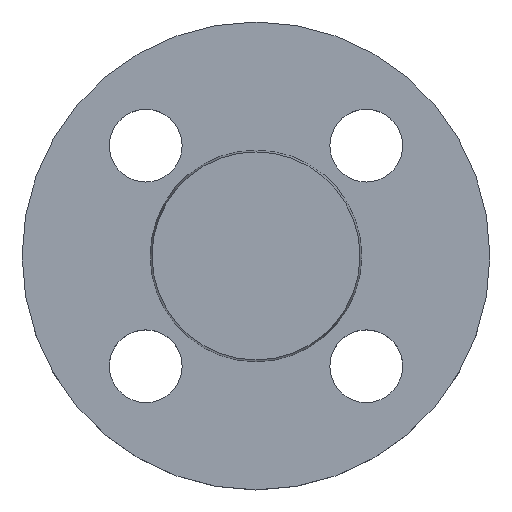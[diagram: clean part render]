
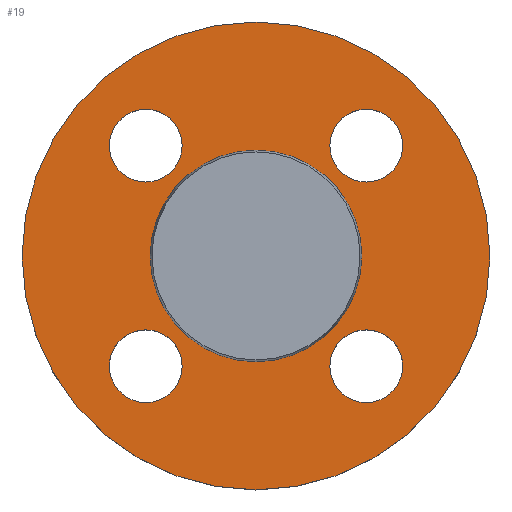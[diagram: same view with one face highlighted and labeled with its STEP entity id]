
A CAD part, top view. The second image highlights one B-rep face of the part: STEP entity #19.
In plain terms, the highlighted planar face has unit normal (0, 0, 1).
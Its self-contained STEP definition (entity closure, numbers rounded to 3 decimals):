
#1 = CARTESIAN_POINT ( 'NONE',  ( 21.213, 21.213, -2. ) ) ;
#7 = CIRCLE ( 'NONE', #300, 20.353 ) ;
#9 = AXIS2_PLACEMENT_3D ( 'NONE', #146, #202, #150 ) ;
#16 = EDGE_LOOP ( 'NONE', ( #533, #534 ) ) ;
#19 = ADVANCED_FACE ( 'NONE', ( #645, #646, #647, #648, #650, #651 ), #652, .T. ) ;
#23 = DIRECTION ( 'NONE',  ( 1., 0., 0. ) ) ;
#24 = DIRECTION ( 'NONE',  ( 0., 0., -1. ) ) ;
#31 = CIRCLE ( 'NONE', #33, 7. ) ;
#33 = AXIS2_PLACEMENT_3D ( 'NONE', #686, #687, #688 ) ;
#65 = CIRCLE ( 'NONE', #73, 7. ) ;
#73 = AXIS2_PLACEMENT_3D ( 'NONE', #715, #717, #718 ) ;
#75 = CIRCLE ( 'NONE', #87, 7. ) ;
#87 = AXIS2_PLACEMENT_3D ( 'NONE', #720, #722, #723 ) ;
#98 = DIRECTION ( 'NONE',  ( 0., 0., -1. ) ) ;
#115 = EDGE_CURVE ( 'NONE', #602, #458, #31, .T. ) ;
#133 = CARTESIAN_POINT ( 'NONE',  ( -14.213, 21.213, -2. ) ) ;
#146 = CARTESIAN_POINT ( 'NONE',  ( 0., 0., -2. ) ) ;
#149 = CARTESIAN_POINT ( 'NONE',  ( -14.213, -21.213, -2. ) ) ;
#150 = DIRECTION ( 'NONE',  ( -1., 0., 0. ) ) ;
#156 = DIRECTION ( 'NONE',  ( -1., 0., 0. ) ) ;
#159 = DIRECTION ( 'NONE',  ( 0., 0., -1. ) ) ;
#165 = CARTESIAN_POINT ( 'NONE',  ( -21.213, -21.213, -2. ) ) ;
#166 = CIRCLE ( 'NONE', #168, 7. ) ;
#168 = AXIS2_PLACEMENT_3D ( 'NONE', #378, #380, #381 ) ;
#172 = CARTESIAN_POINT ( 'NONE',  ( 14.213, 21.213, -2. ) ) ;
#177 = DIRECTION ( 'NONE',  ( 1., 0., 0. ) ) ;
#185 = CARTESIAN_POINT ( 'NONE',  ( 20.353, 0., -2. ) ) ;
#186 = CARTESIAN_POINT ( 'NONE',  ( 14.213, -21.213, -2. ) ) ;
#202 = DIRECTION ( 'NONE',  ( 0., 0., -1. ) ) ;
#204 = CARTESIAN_POINT ( 'NONE',  ( 0., 0., -2. ) ) ;
#205 = DIRECTION ( 'NONE',  ( 0., 0., -1. ) ) ;
#208 = CARTESIAN_POINT ( 'NONE',  ( 45., 0., -2. ) ) ;
#209 = CIRCLE ( 'NONE', #212, 7. ) ;
#212 = AXIS2_PLACEMENT_3D ( 'NONE', #421, #424, #423 ) ;
#213 = CIRCLE ( 'NONE', #216, 7. ) ;
#214 = EDGE_CURVE ( 'NONE', #437, #571, #65, .T. ) ;
#216 = AXIS2_PLACEMENT_3D ( 'NONE', #165, #159, #177 ) ;
#217 = EDGE_CURVE ( 'NONE', #571, #437, #75, .T. ) ;
#226 = CIRCLE ( 'NONE', #9, 45. ) ;
#229 = EDGE_CURVE ( 'NONE', #515, #258, #527, .T. ) ;
#234 = CARTESIAN_POINT ( 'NONE',  ( 21.213, -21.213, -2. ) ) ;
#238 = CIRCLE ( 'NONE', #239, 45. ) ;
#239 = AXIS2_PLACEMENT_3D ( 'NONE', #204, #205, #156 ) ;
#245 = EDGE_CURVE ( 'NONE', #614, #617, #511, .T. ) ;
#247 = EDGE_CURVE ( 'NONE', #631, #497, #466, .T. ) ;
#258 = VERTEX_POINT ( 'NONE', #315 ) ;
#282 = VERTEX_POINT ( 'NONE', #343 ) ;
#287 = AXIS2_PLACEMENT_3D ( 'NONE', #653, #654, #655 ) ;
#297 = DIRECTION ( 'NONE',  ( 1., 0., 0. ) ) ;
#300 = AXIS2_PLACEMENT_3D ( 'NONE', #353, #354, #355 ) ;
#315 = CARTESIAN_POINT ( 'NONE',  ( -20.353, 0., -2. ) ) ;
#320 = EDGE_CURVE ( 'NONE', #258, #515, #7, .T. ) ;
#343 = CARTESIAN_POINT ( 'NONE',  ( -45., 0., -2. ) ) ;
#353 = CARTESIAN_POINT ( 'NONE',  ( 0., 0., -2. ) ) ;
#354 = DIRECTION ( 'NONE',  ( 0., 0., -1. ) ) ;
#355 = DIRECTION ( 'NONE',  ( -1., 0., 0. ) ) ;
#378 = CARTESIAN_POINT ( 'NONE',  ( 21.213, -21.213, -2. ) ) ;
#380 = DIRECTION ( 'NONE',  ( 0., 0., -1. ) ) ;
#381 = DIRECTION ( 'NONE',  ( 1., 0., 0. ) ) ;
#396 = CARTESIAN_POINT ( 'NONE',  ( -28.213, 21.213, -2. ) ) ;
#403 = CARTESIAN_POINT ( 'NONE',  ( -28.213, -21.213, -2. ) ) ;
#415 = CARTESIAN_POINT ( 'NONE',  ( 28.213, -21.213, -2. ) ) ;
#417 = EDGE_CURVE ( 'NONE', #497, #631, #166, .T. ) ;
#421 = CARTESIAN_POINT ( 'NONE',  ( 21.213, 21.213, -2. ) ) ;
#423 = DIRECTION ( 'NONE',  ( 1., 0., 0. ) ) ;
#424 = DIRECTION ( 'NONE',  ( 0., 0., -1. ) ) ;
#428 = CARTESIAN_POINT ( 'NONE',  ( 28.213, 21.213, -2. ) ) ;
#437 = VERTEX_POINT ( 'NONE', #396 ) ;
#458 = VERTEX_POINT ( 'NONE', #403 ) ;
#464 = AXIS2_PLACEMENT_3D ( 'NONE', #234, #98, #297 ) ;
#466 = CIRCLE ( 'NONE', #464, 7. ) ;
#492 = EDGE_CURVE ( 'NONE', #617, #614, #209, .T. ) ;
#497 = VERTEX_POINT ( 'NONE', #186 ) ;
#505 = AXIS2_PLACEMENT_3D ( 'NONE', #1, #24, #23 ) ;
#511 = CIRCLE ( 'NONE', #505, 7. ) ;
#514 = EDGE_CURVE ( 'NONE', #458, #602, #213, .T. ) ;
#515 = VERTEX_POINT ( 'NONE', #185 ) ;
#519 = ORIENTED_EDGE ( 'NONE', *, *, #247, .T. ) ;
#520 = ORIENTED_EDGE ( 'NONE', *, *, #417, .T. ) ;
#521 = ORIENTED_EDGE ( 'NONE', *, *, #115, .T. ) ;
#522 = ORIENTED_EDGE ( 'NONE', *, *, #514, .T. ) ;
#523 = ORIENTED_EDGE ( 'NONE', *, *, #217, .T. ) ;
#527 = CIRCLE ( 'NONE', #544, 20.353 ) ;
#529 = ORIENTED_EDGE ( 'NONE', *, *, #214, .T. ) ;
#531 = ORIENTED_EDGE ( 'NONE', *, *, #492, .T. ) ;
#532 = ORIENTED_EDGE ( 'NONE', *, *, #245, .T. ) ;
#533 = ORIENTED_EDGE ( 'NONE', *, *, #320, .T. ) ;
#534 = ORIENTED_EDGE ( 'NONE', *, *, #229, .T. ) ;
#536 = ORIENTED_EDGE ( 'NONE', *, *, #583, .F. ) ;
#538 = ORIENTED_EDGE ( 'NONE', *, *, #633, .F. ) ;
#544 = AXIS2_PLACEMENT_3D ( 'NONE', #743, #744, #745 ) ;
#556 = EDGE_LOOP ( 'NONE', ( #521, #522 ) ) ;
#571 = VERTEX_POINT ( 'NONE', #133 ) ;
#583 = EDGE_CURVE ( 'NONE', #623, #282, #226, .T. ) ;
#591 = EDGE_LOOP ( 'NONE', ( #523, #529 ) ) ;
#597 = EDGE_LOOP ( 'NONE', ( #531, #532 ) ) ;
#602 = VERTEX_POINT ( 'NONE', #149 ) ;
#610 = EDGE_LOOP ( 'NONE', ( #536, #538 ) ) ;
#614 = VERTEX_POINT ( 'NONE', #172 ) ;
#615 = EDGE_LOOP ( 'NONE', ( #519, #520 ) ) ;
#617 = VERTEX_POINT ( 'NONE', #428 ) ;
#623 = VERTEX_POINT ( 'NONE', #208 ) ;
#631 = VERTEX_POINT ( 'NONE', #415 ) ;
#633 = EDGE_CURVE ( 'NONE', #282, #623, #238, .T. ) ;
#645 = FACE_BOUND ( 'NONE', #615, .T. ) ;
#646 = FACE_BOUND ( 'NONE', #556, .T. ) ;
#647 = FACE_BOUND ( 'NONE', #591, .T. ) ;
#648 = FACE_BOUND ( 'NONE', #597, .T. ) ;
#650 = FACE_BOUND ( 'NONE', #16, .T. ) ;
#651 = FACE_OUTER_BOUND ( 'NONE', #610, .T. ) ;
#652 = PLANE ( 'NONE',  #287 ) ;
#653 = CARTESIAN_POINT ( 'NONE',  ( 20.353, 0., -2. ) ) ;
#654 = DIRECTION ( 'NONE',  ( 0., 0., 1. ) ) ;
#655 = DIRECTION ( 'NONE',  ( 1., 0., 0. ) ) ;
#686 = CARTESIAN_POINT ( 'NONE',  ( -21.213, -21.213, -2. ) ) ;
#687 = DIRECTION ( 'NONE',  ( 0., 0., -1. ) ) ;
#688 = DIRECTION ( 'NONE',  ( 1., 0., 0. ) ) ;
#715 = CARTESIAN_POINT ( 'NONE',  ( -21.213, 21.213, -2. ) ) ;
#717 = DIRECTION ( 'NONE',  ( 0., 0., -1. ) ) ;
#718 = DIRECTION ( 'NONE',  ( 1., 0., 0. ) ) ;
#720 = CARTESIAN_POINT ( 'NONE',  ( -21.213, 21.213, -2. ) ) ;
#722 = DIRECTION ( 'NONE',  ( 0., 0., -1. ) ) ;
#723 = DIRECTION ( 'NONE',  ( 1., 0., 0. ) ) ;
#743 = CARTESIAN_POINT ( 'NONE',  ( 0., 0., -2. ) ) ;
#744 = DIRECTION ( 'NONE',  ( 0., 0., -1. ) ) ;
#745 = DIRECTION ( 'NONE',  ( -1., 0., 0. ) ) ;
